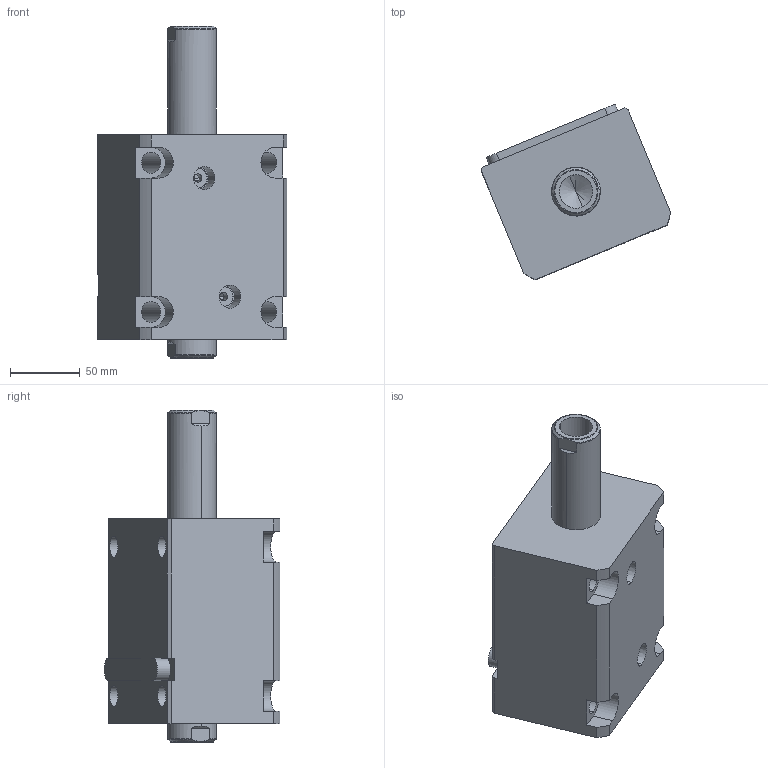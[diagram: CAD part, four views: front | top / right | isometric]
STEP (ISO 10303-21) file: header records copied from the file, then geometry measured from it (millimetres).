
FILE_DESCRIPTION (( 'STEP AP214' ), '1' );
FILE_NAME ('chtb-lw63x65n_asm.STEP', '2018-05-03T07:53:16', ( 'Windows' ), ( 'Microsoft' ), 'SwSTEP 2.0', 'SolidWorks 2015', '' );
FILE_SCHEMA (( 'AUTOMOTIVE_DESIGN' ));
Length unit declared in the file: millimetre
Products named in the file (5): CHTB-LA63PJ; chtb-lw63x65n_asm; CHTB-63QG; CHTB-SW63X65NHSG; CHTB-LW63X65NBT
Assembly tree (4 placements, depth 2):
  chtb-lw63x65n_asm
    CHTB-LA63PJ
    CHTB-LW63X65NBT
    CHTB-SW63X65NHSG
    CHTB-63QG
Bounding box: 135.77 x 126.06 x 238 mm (x, y, z)
Volume: 1336993.7 mm3; surface area: 183593.8 mm2
Topology: 4 solids, 4 shells, 194 faces, 563 edges, 381 vertices
Faces by surface type: cylinder 104, plane 50, cone 16, bspline 12, torus 12
Entity records: 18887 total; most frequent: CARTESIAN_POINT 13868, ORIENTED_EDGE 1110, DIRECTION 876, EDGE_CURVE 555, VERTEX_POINT 381, AXIS2_PLACEMENT_3D 336, EDGE_LOOP 222, VECTOR 204
